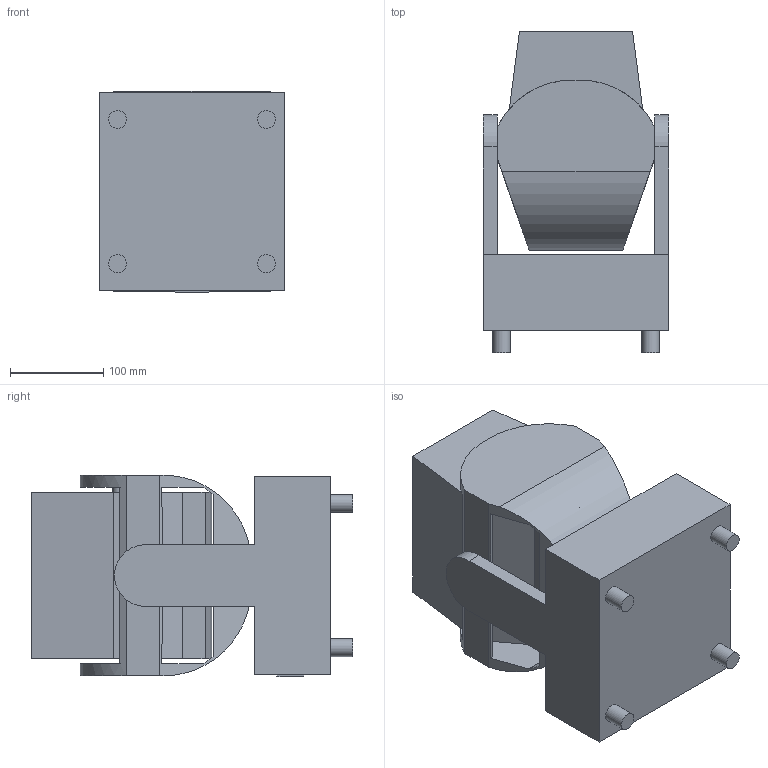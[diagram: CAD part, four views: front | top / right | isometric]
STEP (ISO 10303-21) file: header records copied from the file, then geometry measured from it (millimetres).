
FILE_DESCRIPTION(/* description */ (''),/* implementation_level */ '2;1');
FILE_NAME(/* name */ 'COLORado PXL Curve 1_0.step',/* time_stamp */ '2026-02-20T10:50:15-05:00',/* author */ (''),/* organization */ (''),/* preprocessor_version */ 'ST-DEVELOPER v20.1',/* originating_system */ 'Autodesk Translation Framework v14.24.0.0',/* authorisation */ '');
FILE_SCHEMA (('AUTOMOTIVE_DESIGN { 1 0 10303 214 3 1 1 }'));
Length unit declared in the file: millimetre
Products named in the file (4): ROIP-200C-01-00_ASM; head; tilt (1); Base
Assembly tree (3 placements, depth 3):
  ROIP-200C-01-00_ASM
    head
      tilt (1)
    Base
Bounding box: 199 x 345.5 x 216 mm (x, y, z)
Volume: 8974858.7 mm3; surface area: 543826.6 mm2
Topology: 3 solids, 3 shells, 73 faces, 180 edges, 120 vertices
Faces by surface type: plane 54, cylinder 19
Full cylindrical faces by diameter (mm): 14 x2, 19.18 x4, 26.5 x2
Entity records: 2365 total; most frequent: DIRECTION 382, CARTESIAN_POINT 380, ORIENTED_EDGE 360, EDGE_CURVE 180, LINE 138, VECTOR 138, AXIS2_PLACEMENT_3D 122, VERTEX_POINT 120
